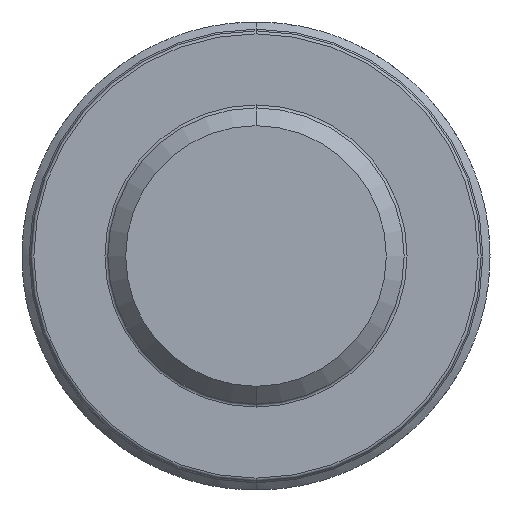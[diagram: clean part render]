
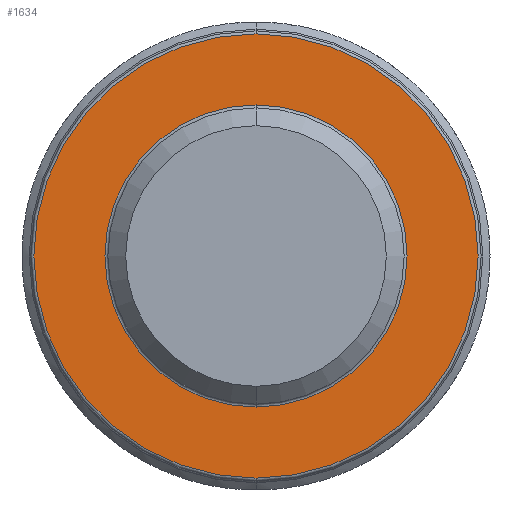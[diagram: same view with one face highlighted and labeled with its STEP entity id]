
A CAD part, front view. The second image highlights one B-rep face of the part: STEP entity #1634.
In plain terms, the highlighted planar face has unit normal (0, -1, 0).
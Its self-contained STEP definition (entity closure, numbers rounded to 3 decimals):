
#69 = CARTESIAN_POINT ( 'NONE',  ( 0., -10., 0. ) ) ;
#177 = CARTESIAN_POINT ( 'NONE',  ( 0., -10., 0. ) ) ;
#447 = ORIENTED_EDGE ( 'NONE', *, *, #4881, .T. ) ;
#494 = DIRECTION ( 'NONE',  ( 0., -1., 0. ) ) ;
#1021 = AXIS2_PLACEMENT_3D ( 'NONE', #7000, #494, #5015 ) ;
#1537 = ORIENTED_EDGE ( 'NONE', *, *, #2696, .T. ) ;
#1634 = ADVANCED_FACE ( 'NONE', ( #3047, #3220 ), #4430, .T. ) ;
#1663 = VERTEX_POINT ( 'NONE', #8225 ) ;
#1959 = EDGE_CURVE ( 'NONE', #1663, #2124, #5625, .T. ) ;
#2124 = VERTEX_POINT ( 'NONE', #5550 ) ;
#2216 = CIRCLE ( 'NONE', #6135, 7.5 ) ;
#2349 = ORIENTED_EDGE ( 'NONE', *, *, #6037, .T. ) ;
#2579 = CARTESIAN_POINT ( 'NONE',  ( 0., -10., 0. ) ) ;
#2660 = DIRECTION ( 'NONE',  ( 0., 1., 0. ) ) ;
#2696 = EDGE_CURVE ( 'NONE', #2124, #1663, #2216, .T. ) ;
#2811 = DIRECTION ( 'NONE',  ( 0., 0., -1. ) ) ;
#2824 = DIRECTION ( 'NONE',  ( 0., 0., -1. ) ) ;
#3047 = FACE_BOUND ( 'NONE', #4320, .T. ) ;
#3182 = CARTESIAN_POINT ( 'NONE',  ( 0., -10., 5.1 ) ) ;
#3220 = FACE_OUTER_BOUND ( 'NONE', #8011, .T. ) ;
#3284 = ORIENTED_EDGE ( 'NONE', *, *, #1959, .T. ) ;
#3711 = VERTEX_POINT ( 'NONE', #3182 ) ;
#4049 = DIRECTION ( 'NONE',  ( 0., -1., 0. ) ) ;
#4320 = EDGE_LOOP ( 'NONE', ( #2349, #447 ) ) ;
#4430 = PLANE ( 'NONE',  #1021 ) ;
#4530 = DIRECTION ( 'NONE',  ( 0., 0., -1. ) ) ;
#4569 = DIRECTION ( 'NONE',  ( 0., -1., 0. ) ) ;
#4587 = CIRCLE ( 'NONE', #6863, 5.1 ) ;
#4881 = EDGE_CURVE ( 'NONE', #3711, #7195, #4587, .T. ) ;
#4942 = AXIS2_PLACEMENT_3D ( 'NONE', #177, #4049, #2811 ) ;
#5015 = DIRECTION ( 'NONE',  ( 0., 0., -1. ) ) ;
#5159 = DIRECTION ( 'NONE',  ( 0., 1., 0. ) ) ;
#5187 = AXIS2_PLACEMENT_3D ( 'NONE', #69, #2660, #2824 ) ;
#5461 = CIRCLE ( 'NONE', #5187, 5.1 ) ;
#5550 = CARTESIAN_POINT ( 'NONE',  ( 0., -10., -7.5 ) ) ;
#5625 = CIRCLE ( 'NONE', #4942, 7.5 ) ;
#5771 = CARTESIAN_POINT ( 'NONE',  ( 0., -10., -5.1 ) ) ;
#6037 = EDGE_CURVE ( 'NONE', #7195, #3711, #5461, .T. ) ;
#6135 = AXIS2_PLACEMENT_3D ( 'NONE', #7893, #4569, #6505 ) ;
#6505 = DIRECTION ( 'NONE',  ( 0., 0., -1. ) ) ;
#6863 = AXIS2_PLACEMENT_3D ( 'NONE', #2579, #5159, #4530 ) ;
#7000 = CARTESIAN_POINT ( 'NONE',  ( 5., -10., 0. ) ) ;
#7195 = VERTEX_POINT ( 'NONE', #5771 ) ;
#7893 = CARTESIAN_POINT ( 'NONE',  ( 0., -10., 0. ) ) ;
#8011 = EDGE_LOOP ( 'NONE', ( #1537, #3284 ) ) ;
#8225 = CARTESIAN_POINT ( 'NONE',  ( 0., -10., 7.5 ) ) ;
